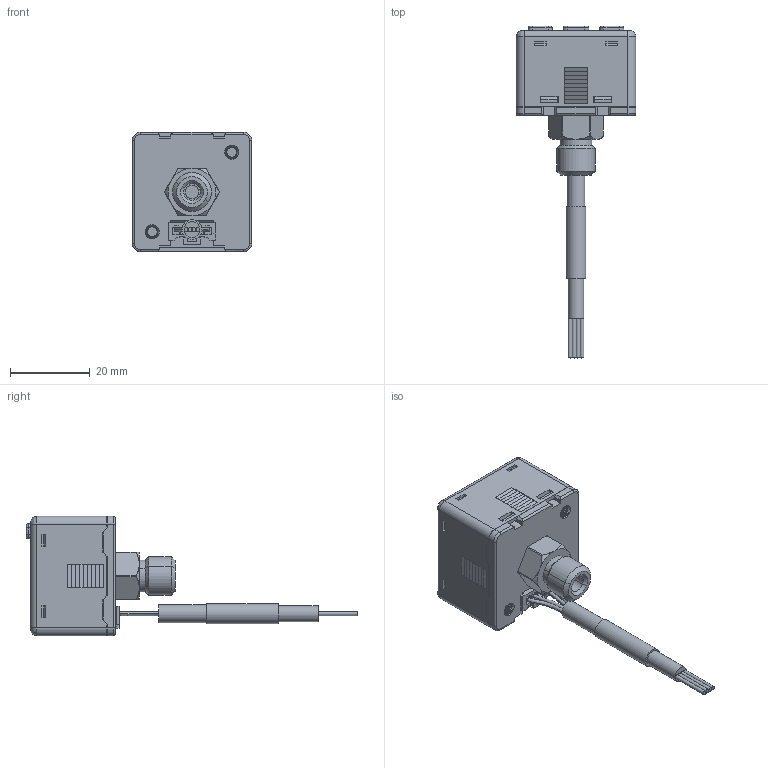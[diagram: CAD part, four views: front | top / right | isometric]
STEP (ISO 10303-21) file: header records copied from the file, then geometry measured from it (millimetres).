
FILE_DESCRIPTION(('STEP AP203'),'1');
FILE_NAME('-F3_3D.stp','2024-12-10T00:56:44',(' '),(' '),'Spatial InterOp 3D',' ',' ');
FILE_SCHEMA(('CONFIG_CONTROL_DESIGN'));
Length unit declared in the file: millimetre
Products named in the file (1): 1
Bounding box: 30 x 83.35 x 30 mm (x, y, z)
Surface area: 7358.1 mm2 (no closed solid volume)
Topology: 0 solids, 744 shells, 771 faces, 3762 edges, 3738 vertices
Faces by surface type: plane 586, cylinder 114, bspline 32, cone 23, torus 16
Full cylindrical faces by diameter (mm): 1 x6, 4 x1, 4.5 x1, 5 x1
Entity records: 43909 total; most frequent: CARTESIAN_POINT 16182, DIRECTION 5282, ORIENTED_EDGE 3797, EDGE_CURVE 3752, VERTEX_POINT 3738, LINE 3066, VECTOR 3066, AXIS2_PLACEMENT_3D 1108
